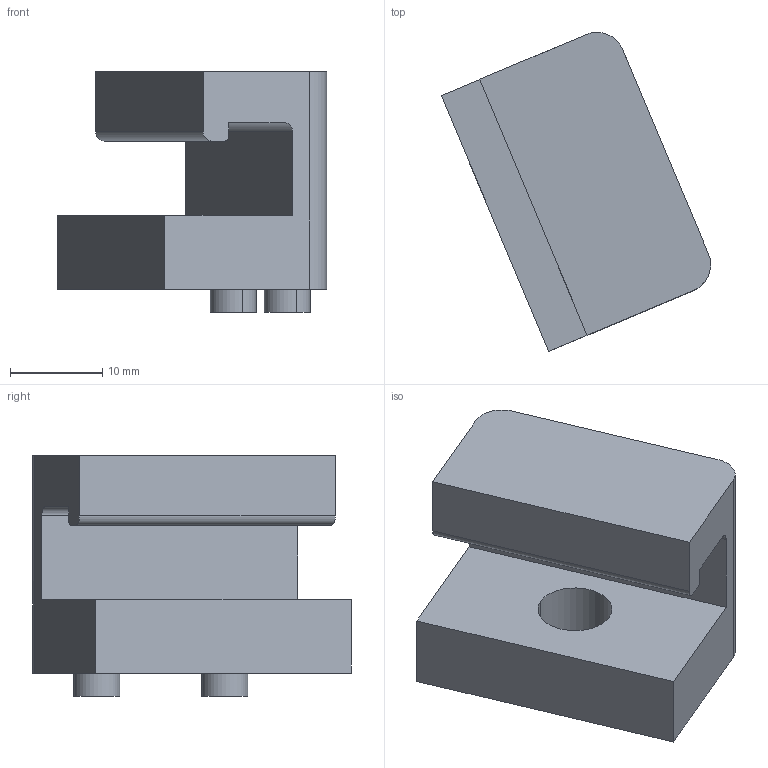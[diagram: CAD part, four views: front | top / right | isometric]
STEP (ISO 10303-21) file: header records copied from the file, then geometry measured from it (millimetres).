
FILE_DESCRIPTION(('CATIA V5 STEP Exchange'),'2;1');
FILE_NAME('E:\张磊\转盘自研\外发冻结数据图纸\3D\最新3D-20230510\2D\2022.11.18-单件图纸\SHT0015119-限位块\SHT0015119-改制.stp','2023-07-25T01:39:09+00:00',('none'),('none'),'CATIA Version 5 Release 20 GA (IN-10)','CATIA V5 STEP AP214','none');
FILE_SCHEMA(('AUTOMOTIVE_DESIGN { 1 0 10303 214 1 1 1 1 }'));
Length unit declared in the file: millimetre
Products named in the file (1): Part8
Bounding box: 29.12 x 34.47 x 26 mm (x, y, z)
Volume: 8627.6 mm3; surface area: 4027.6 mm2
Topology: 1 solids, 1 shells, 28 faces, 78 edges, 50 vertices
Faces by surface type: plane 14, cylinder 11, cone 3
Entity records: 878 total; most frequent: CARTESIAN_POINT 163, ORIENTED_EDGE 148, DIRECTION 125, EDGE_CURVE 74, AXIS2_PLACEMENT_3D 53, VERTEX_POINT 48, VECTOR 46, LINE 46
